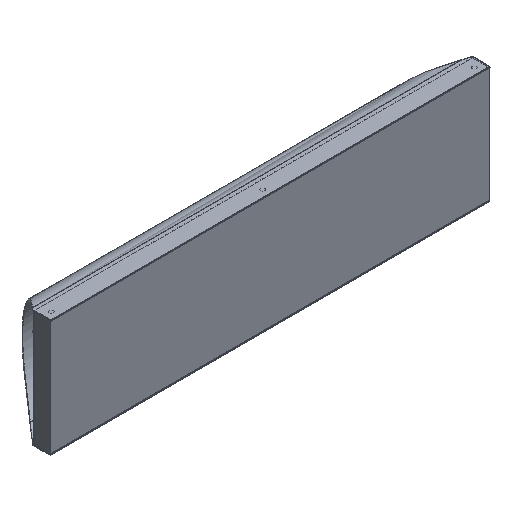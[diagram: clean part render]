
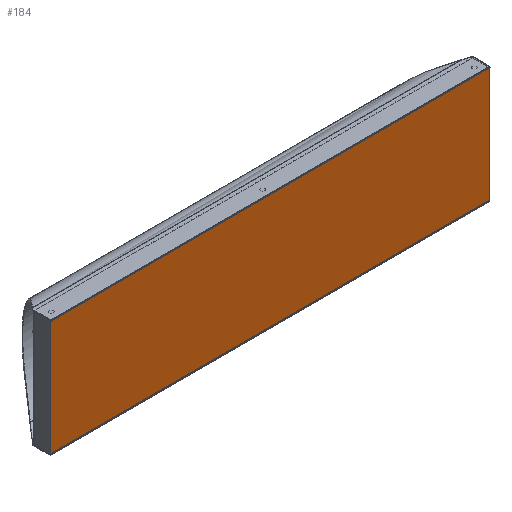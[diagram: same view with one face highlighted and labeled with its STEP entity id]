
A CAD part, isometric view. The second image highlights one B-rep face of the part: STEP entity #184.
In plain terms, the highlighted planar face has unit normal (0, 1, 0).
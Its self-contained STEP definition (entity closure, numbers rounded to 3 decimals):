
#184=ADVANCED_FACE('',(#396),#3305,.T.);
#396=FACE_OUTER_BOUND('',#612,.T.);
#612=EDGE_LOOP('',(#1123,#1124,#1125,#1126,#1127,#1128,#1129,#1130,#1131,
#1132,#1133,#1134));
#1123=ORIENTED_EDGE('',*,*,#2014,.T.);
#1124=ORIENTED_EDGE('',*,*,#2008,.F.);
#1125=ORIENTED_EDGE('',*,*,#2009,.F.);
#1126=ORIENTED_EDGE('',*,*,#2010,.F.);
#1127=ORIENTED_EDGE('',*,*,#2011,.T.);
#1128=ORIENTED_EDGE('',*,*,#2006,.F.);
#1129=ORIENTED_EDGE('',*,*,#2007,.T.);
#1130=ORIENTED_EDGE('',*,*,#2003,.F.);
#1131=ORIENTED_EDGE('',*,*,#2004,.F.);
#1132=ORIENTED_EDGE('',*,*,#2005,.F.);
#1133=ORIENTED_EDGE('',*,*,#2012,.T.);
#1134=ORIENTED_EDGE('',*,*,#2013,.F.);
#2003=EDGE_CURVE('',#2999,#3000,#2499,.T.);
#2004=EDGE_CURVE('',#3001,#2999,#2500,.T.);
#2005=EDGE_CURVE('',#3002,#3001,#2501,.T.);
#2006=EDGE_CURVE('',#3003,#3004,#2502,.T.);
#2007=EDGE_CURVE('',#3003,#3000,#2503,.T.);
#2008=EDGE_CURVE('',#3005,#3006,#2504,.T.);
#2009=EDGE_CURVE('',#3007,#3005,#2505,.T.);
#2010=EDGE_CURVE('',#3008,#3007,#2506,.T.);
#2011=EDGE_CURVE('',#3008,#3004,#2507,.T.);
#2012=EDGE_CURVE('',#3002,#3010,#2508,.T.);
#2013=EDGE_CURVE('',#3009,#3010,#2509,.T.);
#2014=EDGE_CURVE('',#3009,#3006,#2510,.T.);
#2499=B_SPLINE_CURVE_WITH_KNOTS('',1,(#4666,#4667),.UNSPECIFIED.,.F.,.F.,
(2,2),(0.,1.),.UNSPECIFIED.);
#2500=B_SPLINE_CURVE_WITH_KNOTS('',1,(#4668,#4669),.UNSPECIFIED.,.F.,.F.,
(2,2),(0.,597.),.UNSPECIFIED.);
#2501=B_SPLINE_CURVE_WITH_KNOTS('',1,(#4670,#4671),.UNSPECIFIED.,.F.,.F.,
(2,2),(0.,1.),.UNSPECIFIED.);
#2502=B_SPLINE_CURVE_WITH_KNOTS('',1,(#4672,#4673),.UNSPECIFIED.,.F.,.F.,
(2,2),(0.,158.),.UNSPECIFIED.);
#2503=B_SPLINE_CURVE_WITH_KNOTS('',1,(#4674,#4675),.UNSPECIFIED.,.F.,.F.,
(2,2),(1.,1.5),.UNSPECIFIED.);
#2504=B_SPLINE_CURVE_WITH_KNOTS('',1,(#4676,#4677),.UNSPECIFIED.,.F.,.F.,
(2,2),(0.,1.),.UNSPECIFIED.);
#2505=B_SPLINE_CURVE_WITH_KNOTS('',1,(#4678,#4679),.UNSPECIFIED.,.F.,.F.,
(2,2),(0.,597.),.UNSPECIFIED.);
#2506=B_SPLINE_CURVE_WITH_KNOTS('',1,(#4680,#4681),.UNSPECIFIED.,.F.,.F.,
(2,2),(0.,1.),.UNSPECIFIED.);
#2507=B_SPLINE_CURVE_WITH_KNOTS('',1,(#4682,#4683),.UNSPECIFIED.,.F.,.F.,
(2,2),(-1.5,-1.),.UNSPECIFIED.);
#2508=B_SPLINE_CURVE_WITH_KNOTS('',1,(#4684,#4685),.UNSPECIFIED.,.F.,.F.,
(2,2),(598.5,599.),.UNSPECIFIED.);
#2509=B_SPLINE_CURVE_WITH_KNOTS('',1,(#4686,#4687),.UNSPECIFIED.,.F.,.F.,
(2,2),(0.,158.),.UNSPECIFIED.);
#2510=B_SPLINE_CURVE_WITH_KNOTS('',1,(#4688,#4689),.UNSPECIFIED.,.F.,.F.,
(2,2),(-599.,-598.5),.UNSPECIFIED.);
#2999=VERTEX_POINT('',#4654);
#3000=VERTEX_POINT('',#4655);
#3001=VERTEX_POINT('',#4656);
#3002=VERTEX_POINT('',#4657);
#3003=VERTEX_POINT('',#4658);
#3004=VERTEX_POINT('',#4659);
#3005=VERTEX_POINT('',#4660);
#3006=VERTEX_POINT('',#4661);
#3007=VERTEX_POINT('',#4662);
#3008=VERTEX_POINT('',#4663);
#3009=VERTEX_POINT('',#4664);
#3010=VERTEX_POINT('',#4665);
#3305=PLANE('',#3551);
#3551=AXIS2_PLACEMENT_3D('',#4653,#3668,$);
#3668=DIRECTION('',(0.,1.,0.));
#4653=CARTESIAN_POINT('',(-301.211,0.,79.));
#4654=CARTESIAN_POINT('',(-299.711,0.,78.));
#4655=CARTESIAN_POINT('',(-299.711,0.,79.));
#4656=CARTESIAN_POINT('',(297.289,0.,78.));
#4657=CARTESIAN_POINT('',(297.289,0.,79.));
#4658=CARTESIAN_POINT('',(-300.211,0.,79.));
#4659=CARTESIAN_POINT('',(-300.211,0.,-79.));
#4660=CARTESIAN_POINT('',(297.289,0.,-78.));
#4661=CARTESIAN_POINT('',(297.289,0.,-79.));
#4662=CARTESIAN_POINT('',(-299.711,0.,-78.));
#4663=CARTESIAN_POINT('',(-299.711,0.,-79.));
#4664=CARTESIAN_POINT('',(297.789,0.,-79.));
#4665=CARTESIAN_POINT('',(297.789,0.,79.));
#4666=CARTESIAN_POINT('',(-299.711,0.,78.));
#4667=CARTESIAN_POINT('',(-299.711,0.,79.));
#4668=CARTESIAN_POINT('',(297.289,0.,78.));
#4669=CARTESIAN_POINT('',(-299.711,0.,78.));
#4670=CARTESIAN_POINT('',(297.289,0.,79.));
#4671=CARTESIAN_POINT('',(297.289,0.,78.));
#4672=CARTESIAN_POINT('',(-300.211,0.,79.));
#4673=CARTESIAN_POINT('',(-300.211,0.,-79.));
#4674=CARTESIAN_POINT('',(-300.211,0.,79.));
#4675=CARTESIAN_POINT('',(-299.711,0.,79.));
#4676=CARTESIAN_POINT('',(297.289,0.,-78.));
#4677=CARTESIAN_POINT('',(297.289,0.,-79.));
#4678=CARTESIAN_POINT('',(-299.711,0.,-78.));
#4679=CARTESIAN_POINT('',(297.289,0.,-78.));
#4680=CARTESIAN_POINT('',(-299.711,0.,-79.));
#4681=CARTESIAN_POINT('',(-299.711,0.,-78.));
#4682=CARTESIAN_POINT('',(-299.711,0.,-79.));
#4683=CARTESIAN_POINT('',(-300.211,0.,-79.));
#4684=CARTESIAN_POINT('',(297.289,0.,79.));
#4685=CARTESIAN_POINT('',(297.789,0.,79.));
#4686=CARTESIAN_POINT('',(297.789,0.,-79.));
#4687=CARTESIAN_POINT('',(297.789,0.,79.));
#4688=CARTESIAN_POINT('',(297.789,0.,-79.));
#4689=CARTESIAN_POINT('',(297.289,0.,-79.));
